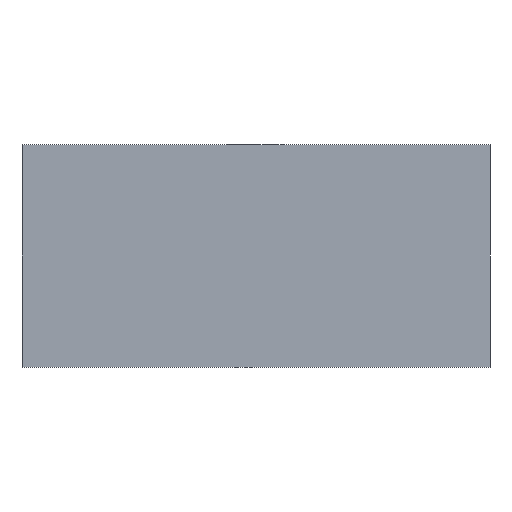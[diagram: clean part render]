
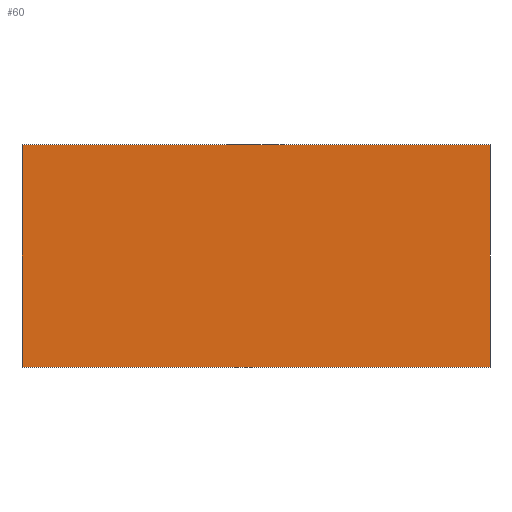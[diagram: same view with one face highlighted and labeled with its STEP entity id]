
A CAD part, front view. The second image highlights one B-rep face of the part: STEP entity #60.
In plain terms, the highlighted planar face has unit normal (0, -1, 0).
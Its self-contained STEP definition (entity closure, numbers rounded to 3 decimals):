
#21 = EDGE_CURVE('',#22,#24,#26,.T.);
#22 = VERTEX_POINT('',#23);
#23 = CARTESIAN_POINT('',(105.22,60.,217.153));
#24 = VERTEX_POINT('',#25);
#25 = CARTESIAN_POINT('',(105.22,60.,223.503));
#26 = LINE('',#27,#28);
#27 = CARTESIAN_POINT('',(105.22,60.,217.153));
#28 = VECTOR('',#29,1.);
#29 = DIRECTION('',(0.,0.,1.));
#60 = ADVANCED_FACE('',(#61),#86,.F.);
#61 = FACE_BOUND('',#62,.F.);
#62 = EDGE_LOOP('',(#63,#71,#72,#80));
#63 = ORIENTED_EDGE('',*,*,#64,.F.);
#64 = EDGE_CURVE('',#22,#65,#67,.T.);
#65 = VERTEX_POINT('',#66);
#66 = CARTESIAN_POINT('',(118.591,60.,217.153));
#67 = LINE('',#68,#69);
#68 = CARTESIAN_POINT('',(105.22,60.,217.153));
#69 = VECTOR('',#70,1.);
#70 = DIRECTION('',(1.,0.,0.));
#71 = ORIENTED_EDGE('',*,*,#21,.T.);
#72 = ORIENTED_EDGE('',*,*,#73,.T.);
#73 = EDGE_CURVE('',#24,#74,#76,.T.);
#74 = VERTEX_POINT('',#75);
#75 = CARTESIAN_POINT('',(118.591,60.,223.503));
#76 = LINE('',#77,#78);
#77 = CARTESIAN_POINT('',(105.22,60.,223.503));
#78 = VECTOR('',#79,1.);
#79 = DIRECTION('',(1.,0.,0.));
#80 = ORIENTED_EDGE('',*,*,#81,.F.);
#81 = EDGE_CURVE('',#65,#74,#82,.T.);
#82 = LINE('',#83,#84);
#83 = CARTESIAN_POINT('',(118.591,60.,217.153));
#84 = VECTOR('',#85,1.);
#85 = DIRECTION('',(0.,0.,1.));
#86 = PLANE('',#87);
#87 = AXIS2_PLACEMENT_3D('',#88,#89,#90);
#88 = CARTESIAN_POINT('',(105.22,60.,217.153));
#89 = DIRECTION('',(0.,1.,0.));
#90 = DIRECTION('',(0.,0.,1.));
